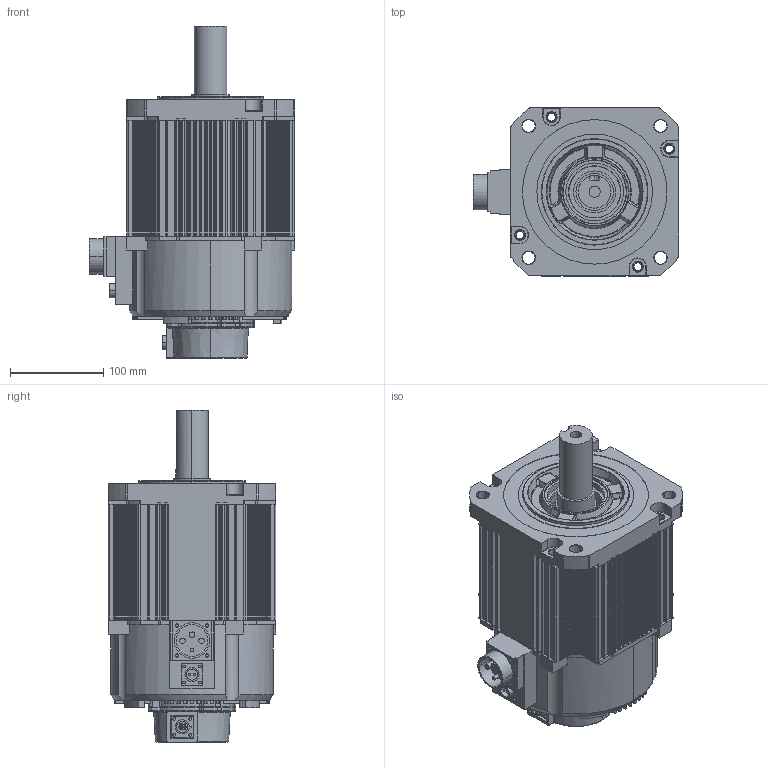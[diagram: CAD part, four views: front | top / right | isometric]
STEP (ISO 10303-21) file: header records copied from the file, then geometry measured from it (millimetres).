
FILE_DESCRIPTION(('CATIA V5 STEP Exchange'),'2;1');
FILE_NAME('F:\公司\180- 5对极\180A-27015\3D\180AST-28415HBZ\180AST-28415HBZ-ZZP.stp','2021-08-17T06:08:33+00:00',('none'),('none'),'CATIA Version 5 Release 20 GA (IN-10)','CATIA V5 STEP AP203','none');
FILE_SCHEMA(('CONFIG_CONTROL_DESIGN'));
Products named in the file (1): 180AST-28415HBZ-ZZP
Bounding box: 220 x 180 x 356 mm (x, y, z)
Volume: 2831476.3 mm3; surface area: 756734.2 mm2
Topology: 3 solids, 3 shells, 2663 faces, 6809 edges, 4247 vertices
Faces by surface type: cylinder 1159, plane 957, torus 279, bspline 162, sphere 74, cone 32
Entity records: 82477 total; most frequent: CARTESIAN_POINT 23414, ORIENTED_EDGE 13520, DIRECTION 9624, EDGE_CURVE 6760, AXIS2_PLACEMENT_3D 4783, VERTEX_POINT 4247, VECTOR 3124, LINE 3124
